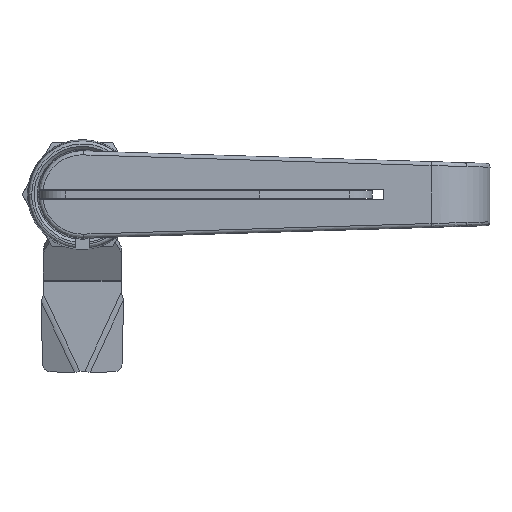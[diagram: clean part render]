
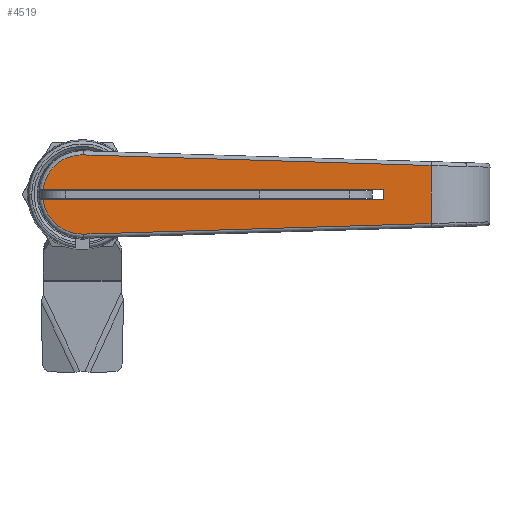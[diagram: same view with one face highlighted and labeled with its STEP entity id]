
A CAD part, front view. The second image highlights one B-rep face of the part: STEP entity #4519.
In plain terms, the highlighted planar face has unit normal (0, -1, 0).
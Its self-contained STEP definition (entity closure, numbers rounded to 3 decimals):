
#146 = CARTESIAN_POINT ( 'NONE',  ( 89.851, -17.5, -7.462 ) ) ;
#1019 = EDGE_CURVE ( 'NONE', #20839, #29672, #7699, .T. ) ;
#1419 = CARTESIAN_POINT ( 'NONE',  ( 88.89, -17.5, 7.491 ) ) ;
#1836 = CARTESIAN_POINT ( 'NONE',  ( 89.851, -17.5, -7.462 ) ) ;
#2587 = CARTESIAN_POINT ( 'NONE',  ( -4.539, -17.5, 9.221 ) ) ;
#4227 = DIRECTION ( 'NONE',  ( 1., 0., 0. ) ) ;
#4519 = ADVANCED_FACE ( 'NONE', ( #42660 ), #41815, .F. ) ;
#4720 = AXIS2_PLACEMENT_3D ( 'NONE', #24575, #29174, #11695 ) ;
#4865 = EDGE_CURVE ( 'NONE', #33950, #14143, #26844, .T. ) ;
#5048 = DIRECTION ( 'NONE',  ( -1., 0., -0.031 ) ) ;
#5063 = CARTESIAN_POINT ( 'NONE',  ( 89.851, -17.5, 2.488 ) ) ;
#7204 = ORIENTED_EDGE ( 'NONE', *, *, #13242, .F. ) ;
#7618 = ORIENTED_EDGE ( 'NONE', *, *, #26052, .F. ) ;
#7699 = LINE ( 'NONE', #21730, #12265 ) ;
#8227 = DIRECTION ( 'NONE',  ( -1., 0., -0.03 ) ) ;
#8998 = VERTEX_POINT ( 'NONE', #52916 ) ;
#10227 = CARTESIAN_POINT ( 'NONE',  ( 4.936, -17.5, -10.054 ) ) ;
#10613 = DIRECTION ( 'NONE',  ( 1., 0., -0.03 ) ) ;
#10657 = CARTESIAN_POINT ( 'NONE',  ( -7.563, -17.5, 6.958 ) ) ;
#11646 = DIRECTION ( 'NONE',  ( -1., 0., 0. ) ) ;
#11695 = DIRECTION ( 'NONE',  ( 0., 0., 1. ) ) ;
#12265 = VECTOR ( 'NONE', #4227, 1000. ) ;
#13234 = VECTOR ( 'NONE', #5048, 1000. ) ;
#13242 = EDGE_CURVE ( 'NONE', #29672, #8998, #40761, .T. ) ;
#13566 = CARTESIAN_POINT ( 'NONE',  ( 0.356, -17.5, -10.194 ) ) ;
#13845 = VECTOR ( 'NONE', #56343, 1000. ) ;
#14143 = VERTEX_POINT ( 'NONE', #53001 ) ;
#14146 = LINE ( 'NONE', #31642, #23062 ) ;
#15254 = ORIENTED_EDGE ( 'NONE', *, *, #21474, .F. ) ;
#16850 = CARTESIAN_POINT ( 'NONE',  ( 89.851, -17.5, -7.462 ) ) ;
#17043 = ORIENTED_EDGE ( 'NONE', *, *, #41385, .F. ) ;
#17048 = CARTESIAN_POINT ( 'NONE',  ( -9.434, -17.5, -6.643 ) ) ;
#17697 = CARTESIAN_POINT ( 'NONE',  ( 0.354, -17.5, 10.194 ) ) ;
#17946 = CARTESIAN_POINT ( 'NONE',  ( 88.89, -17.5, -7.491 ) ) ;
#19229 = CARTESIAN_POINT ( 'NONE',  ( 77.5, -17.5, -1.294 ) ) ;
#19830 = CARTESIAN_POINT ( 'NONE',  ( -0.902, -17.5, 10.238 ) ) ;
#20048 = EDGE_CURVE ( 'NONE', #44737, #38686, #23209, .T. ) ;
#20443 = ORIENTED_EDGE ( 'NONE', *, *, #20048, .F. ) ;
#20523 = LINE ( 'NONE', #42620, #41419 ) ;
#20585 = EDGE_CURVE ( 'NONE', #54469, #44737, #14146, .T. ) ;
#20586 = CARTESIAN_POINT ( 'NONE',  ( 89.851, -17.5, 7.462 ) ) ;
#20839 = VERTEX_POINT ( 'NONE', #32424 ) ;
#21026 = EDGE_LOOP ( 'NONE', ( #40657, #7204, #39646, #15254, #7618, #49243, #32454, #37898, #17043, #36402, #20443, #21259, #36468, #53246, #25578 ) ) ;
#21259 = ORIENTED_EDGE ( 'NONE', *, *, #20585, .F. ) ;
#21337 = DIRECTION ( 'NONE',  ( 1., 0., -0.031 ) ) ;
#21474 = EDGE_CURVE ( 'NONE', #27520, #20839, #29490, .T. ) ;
#21730 = CARTESIAN_POINT ( 'NONE',  ( 47.393, -17.5, -1.294 ) ) ;
#21813 = B_SPLINE_CURVE_WITH_KNOTS ( 'NONE', 3,
 ( #44366, #5063, #22537, #16850 ),
 .UNSPECIFIED., .F., .F.,
 ( 4, 4 ),
 ( 0., 1. ),
 .UNSPECIFIED. ) ;
#21962 = VECTOR ( 'NONE', #21337, 1000. ) ;
#22537 = CARTESIAN_POINT ( 'NONE',  ( 89.851, -17.5, -2.487 ) ) ;
#22707 = VERTEX_POINT ( 'NONE', #56341 ) ;
#22909 = VERTEX_POINT ( 'NONE', #17946 ) ;
#23062 = VECTOR ( 'NONE', #27315, 1000. ) ;
#23209 = LINE ( 'NONE', #1419, #35912 ) ;
#24575 = CARTESIAN_POINT ( 'NONE',  ( 47.393, -17.5, 0. ) ) ;
#24883 = CARTESIAN_POINT ( 'NONE',  ( 4.934, -17.5, 10.054 ) ) ;
#25419 = VERTEX_POINT ( 'NONE', #1836 ) ;
#25571 = B_SPLINE_CURVE_WITH_KNOTS ( 'NONE', 3,
 ( #48362, #44894, #52969, #53535 ),
 .UNSPECIFIED., .F., .F.,
 ( 4, 4 ),
 ( 0., 1. ),
 .UNSPECIFIED. ) ;
#25578 = ORIENTED_EDGE ( 'NONE', *, *, #44169, .F. ) ;
#25916 = LINE ( 'NONE', #34248, #21962 ) ;
#26052 = EDGE_CURVE ( 'NONE', #44893, #27520, #25571, .T. ) ;
#26283 = EDGE_CURVE ( 'NONE', #50218, #54469, #25916, .T. ) ;
#26482 = VECTOR ( 'NONE', #45126, 1000. ) ;
#26844 = LINE ( 'NONE', #36283, #13234 ) ;
#26984 = VECTOR ( 'NONE', #44936, 1000. ) ;
#27108 = CARTESIAN_POINT ( 'NONE',  ( 88.89, -17.5, 7.491 ) ) ;
#27315 = DIRECTION ( 'NONE',  ( 1., 0., -0.031 ) ) ;
#27434 = LINE ( 'NONE', #10227, #26984 ) ;
#27520 = VERTEX_POINT ( 'NONE', #43359 ) ;
#27839 = DIRECTION ( 'NONE',  ( 0., 0., 1. ) ) ;
#27869 = CARTESIAN_POINT ( 'NONE',  ( -9.566, -17.5, 3.756 ) ) ;
#28376 = EDGE_CURVE ( 'NONE', #22909, #33950, #38518, .T. ) ;
#29174 = DIRECTION ( 'NONE',  ( 0., 1., 0. ) ) ;
#29490 =( BOUNDED_CURVE ( )  B_SPLINE_CURVE ( 3, ( #56358, #38825, #17048, #34529 ),
 .UNSPECIFIED., .F., .T. ) 
 B_SPLINE_CURVE_WITH_KNOTS ( ( 4, 4 ),
 ( 0., 1. ),
 .UNSPECIFIED. ) 
 CURVE ( )  GEOMETRIC_REPRESENTATION_ITEM ( )  RATIONAL_B_SPLINE_CURVE ( ( 1., 0.834, 0.834, 1. ) ) 
 REPRESENTATION_ITEM ( '' )  );
#29672 = VERTEX_POINT ( 'NONE', #19229 ) ;
#29918 = B_SPLINE_CURVE_WITH_KNOTS ( 'NONE', 3,
 ( #31897, #41922, #27869, #54267, #10657, #32750, #2587, #40789, #19830, #45656 ),
 .UNSPECIFIED., .F., .F.,
 ( 4, 2, 2, 2, 4 ),
 ( 0., 0.25, 0.5, 0.75, 1. ),
 .UNSPECIFIED. ) ;
#29924 = VECTOR ( 'NONE', #27839, 1000. ) ;
#31642 = CARTESIAN_POINT ( 'NONE',  ( 48.457, -17.5, 8.726 ) ) ;
#31860 = EDGE_CURVE ( 'NONE', #34602, #50218, #53758, .T. ) ;
#31897 = CARTESIAN_POINT ( 'NONE',  ( -10.118, -17.5, 1.294 ) ) ;
#32424 = CARTESIAN_POINT ( 'NONE',  ( -10.118, -17.5, -1.294 ) ) ;
#32454 = ORIENTED_EDGE ( 'NONE', *, *, #4865, .F. ) ;
#32750 = CARTESIAN_POINT ( 'NONE',  ( -5.648, -17.5, 8.586 ) ) ;
#33950 = VERTEX_POINT ( 'NONE', #43655 ) ;
#34248 = CARTESIAN_POINT ( 'NONE',  ( 4.934, -17.5, 10.054 ) ) ;
#34529 = CARTESIAN_POINT ( 'NONE',  ( -10.118, -17.5, -1.294 ) ) ;
#34602 = VERTEX_POINT ( 'NONE', #17697 ) ;
#35912 = VECTOR ( 'NONE', #10613, 1000. ) ;
#36283 = CARTESIAN_POINT ( 'NONE',  ( 48.457, -17.5, -8.726 ) ) ;
#36402 = ORIENTED_EDGE ( 'NONE', *, *, #53389, .F. ) ;
#36468 = ORIENTED_EDGE ( 'NONE', *, *, #26283, .F. ) ;
#37561 = EDGE_CURVE ( 'NONE', #14143, #44893, #27434, .T. ) ;
#37898 = ORIENTED_EDGE ( 'NONE', *, *, #28376, .F. ) ;
#38518 = LINE ( 'NONE', #51184, #13845 ) ;
#38628 = LINE ( 'NONE', #146, #44845 ) ;
#38686 = VERTEX_POINT ( 'NONE', #20586 ) ;
#38825 = CARTESIAN_POINT ( 'NONE',  ( -5.384, -17.5, -10.205 ) ) ;
#39646 = ORIENTED_EDGE ( 'NONE', *, *, #1019, .F. ) ;
#40177 = CARTESIAN_POINT ( 'NONE',  ( 77.5, -17.5, 0. ) ) ;
#40657 = ORIENTED_EDGE ( 'NONE', *, *, #49800, .F. ) ;
#40761 = LINE ( 'NONE', #40177, #29924 ) ;
#40789 = CARTESIAN_POINT ( 'NONE',  ( -2.165, -17.5, 10.046 ) ) ;
#41385 = EDGE_CURVE ( 'NONE', #25419, #22909, #38628, .T. ) ;
#41419 = VECTOR ( 'NONE', #11646, 1000. ) ;
#41815 = PLANE ( 'NONE',  #4720 ) ;
#41922 = CARTESIAN_POINT ( 'NONE',  ( -9.958, -17.5, 2.54 ) ) ;
#42620 = CARTESIAN_POINT ( 'NONE',  ( 47.393, -17.5, 1.294 ) ) ;
#42660 = FACE_OUTER_BOUND ( 'NONE', #21026, .T. ) ;
#43359 = CARTESIAN_POINT ( 'NONE',  ( 0.01, -17.5, -10.2 ) ) ;
#43655 = CARTESIAN_POINT ( 'NONE',  ( 48.457, -17.5, -8.726 ) ) ;
#44169 = EDGE_CURVE ( 'NONE', #22707, #34602, #29918, .T. ) ;
#44366 = CARTESIAN_POINT ( 'NONE',  ( 89.851, -17.5, 7.462 ) ) ;
#44737 = VERTEX_POINT ( 'NONE', #27108 ) ;
#44845 = VECTOR ( 'NONE', #8227, 1000. ) ;
#44893 = VERTEX_POINT ( 'NONE', #13566 ) ;
#44894 = CARTESIAN_POINT ( 'NONE',  ( 0.241, -17.5, -10.198 ) ) ;
#44936 = DIRECTION ( 'NONE',  ( -1., 0., -0.03 ) ) ;
#45126 = DIRECTION ( 'NONE',  ( 1., 0., -0.031 ) ) ;
#45656 = CARTESIAN_POINT ( 'NONE',  ( 0.354, -17.5, 10.194 ) ) ;
#47571 = CARTESIAN_POINT ( 'NONE',  ( 48.457, -17.5, 8.726 ) ) ;
#48362 = CARTESIAN_POINT ( 'NONE',  ( 0.356, -17.5, -10.194 ) ) ;
#49243 = ORIENTED_EDGE ( 'NONE', *, *, #37561, .F. ) ;
#49800 = EDGE_CURVE ( 'NONE', #8998, #22707, #20523, .T. ) ;
#50218 = VERTEX_POINT ( 'NONE', #24883 ) ;
#51184 = CARTESIAN_POINT ( 'NONE',  ( 88.89, -17.5, -7.491 ) ) ;
#52649 = CARTESIAN_POINT ( 'NONE',  ( 0.354, -17.5, 10.194 ) ) ;
#52916 = CARTESIAN_POINT ( 'NONE',  ( 77.5, -17.5, 1.294 ) ) ;
#52969 = CARTESIAN_POINT ( 'NONE',  ( 0.125, -17.5, -10.2 ) ) ;
#53001 = CARTESIAN_POINT ( 'NONE',  ( 4.936, -17.5, -10.054 ) ) ;
#53246 = ORIENTED_EDGE ( 'NONE', *, *, #31860, .F. ) ;
#53389 = EDGE_CURVE ( 'NONE', #38686, #25419, #21813, .T. ) ;
#53535 = CARTESIAN_POINT ( 'NONE',  ( 0.01, -17.5, -10.2 ) ) ;
#53758 = LINE ( 'NONE', #52649, #26482 ) ;
#54267 = CARTESIAN_POINT ( 'NONE',  ( -8.368, -17.5, 5.966 ) ) ;
#54469 = VERTEX_POINT ( 'NONE', #47571 ) ;
#56341 = CARTESIAN_POINT ( 'NONE',  ( -10.118, -17.5, 1.294 ) ) ;
#56343 = DIRECTION ( 'NONE',  ( -1., 0., -0.031 ) ) ;
#56358 = CARTESIAN_POINT ( 'NONE',  ( 0.01, -17.5, -10.2 ) ) ;
